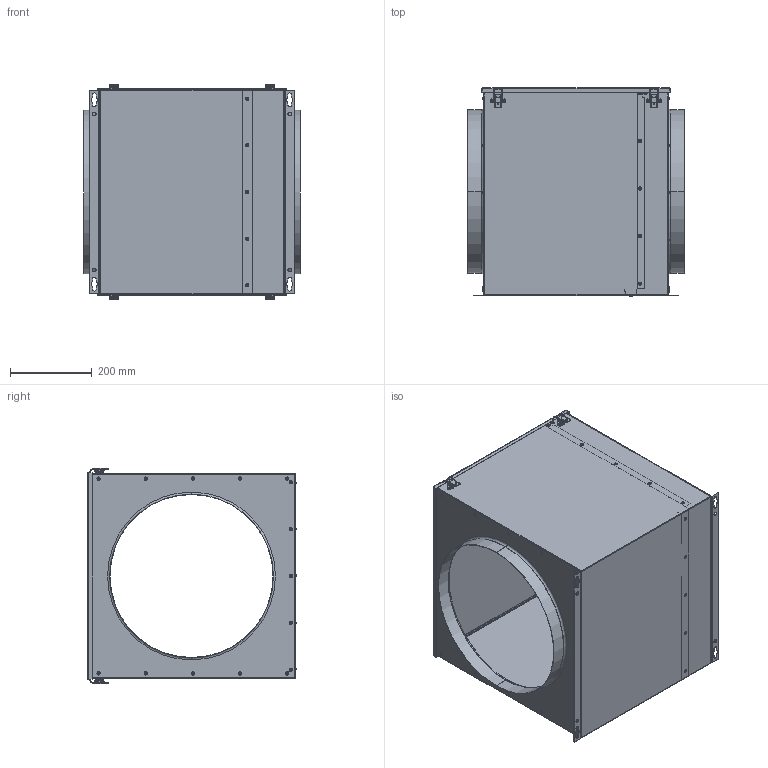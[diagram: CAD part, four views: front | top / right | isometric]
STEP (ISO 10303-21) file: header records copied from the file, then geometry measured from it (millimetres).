
FILE_DESCRIPTION (( 'STEP AP203' ), '1' );
FILE_NAME ('112848-01_FT400_step.step', '2020-08-26T08:44:28', ( '' ), ( '' ), 'SwSTEP 2.0', 'SolidWorks 2017', '' );
FILE_SCHEMA (( 'CONFIG_CONTROL_DESIGN' ));
Length unit declared in the file: millimetre
Products named in the file (1): 112848-01_FT400_step
Bounding box: 530 x 509.3 x 527.59 mm (x, y, z)
Surface area: 2738841.1 mm2 (no closed solid volume)
Topology: 0 solids, 116 shells, 740 faces, 2524 edges, 1784 vertices
Faces by surface type: cylinder 347, plane 177, torus 140, bspline 76
Entity records: 29616 total; most frequent: CARTESIAN_POINT 7043, DIRECTION 5304, ORIENTED_EDGE 3812, EDGE_CURVE 2524, AXIS2_PLACEMENT_3D 2177, VERTEX_POINT 1784, CIRCLE 1512, EDGE_LOOP 951
